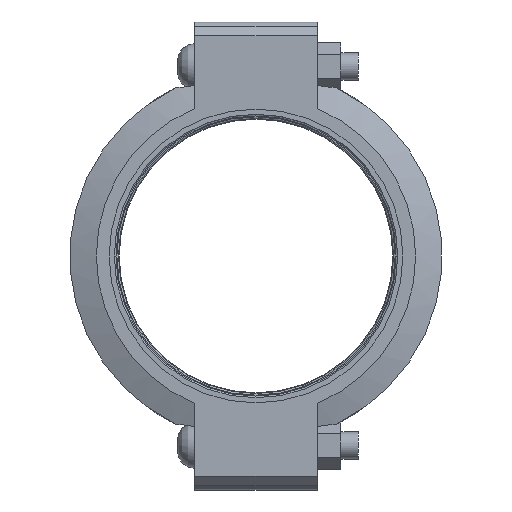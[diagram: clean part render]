
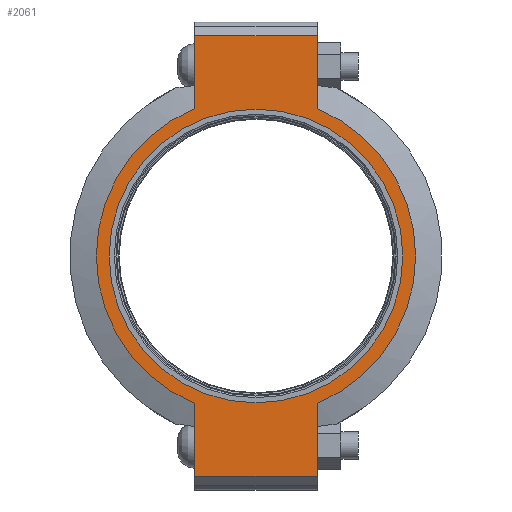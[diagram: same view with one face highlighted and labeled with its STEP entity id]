
A CAD part, left-side view. The second image highlights one B-rep face of the part: STEP entity #2061.
In plain terms, the highlighted planar face has unit normal (-1, 0, 0) as drawn and (0, 0, 1) by its records, which use the part's own axes.
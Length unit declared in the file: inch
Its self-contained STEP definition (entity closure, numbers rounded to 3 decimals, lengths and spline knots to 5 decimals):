
#170=LINE('',#3626,#263);
#181=LINE('',#3677,#274);
#187=LINE('',#3703,#280);
#189=LINE('',#3706,#282);
#190=LINE('',#3711,#283);
#191=LINE('',#3712,#284);
#263=VECTOR('',#2953,0.3937);
#274=VECTOR('',#2984,0.3937);
#280=VECTOR('',#3002,0.3937);
#282=VECTOR('',#3006,0.3937);
#283=VECTOR('',#3011,0.3937);
#284=VECTOR('',#3012,0.3937);
#347=FACE_BOUND('',#600,.T.);
#390=PLANE('',#2407);
#477=FACE_OUTER_BOUND('',#599,.T.);
#599=EDGE_LOOP('',(#1734,#1735,#1736,#1737,#1738,#1739,#1740,#1741));
#600=EDGE_LOOP('',(#1742));
#784=CIRCLE('',#2408,5.845);
#785=CIRCLE('',#2409,5.845);
#786=CIRCLE('',#2410,5.375);
#956=VERTEX_POINT('',#3623);
#957=VERTEX_POINT('',#3625);
#974=VERTEX_POINT('',#3672);
#975=VERTEX_POINT('',#3676);
#982=VERTEX_POINT('',#3698);
#983=VERTEX_POINT('',#3702);
#984=VERTEX_POINT('',#3708);
#985=VERTEX_POINT('',#3710);
#986=VERTEX_POINT('',#3714);
#1211=EDGE_CURVE('',#957,#956,#170,.T.);
#1232=EDGE_CURVE('',#975,#974,#181,.T.);
#1243=EDGE_CURVE('',#983,#982,#187,.T.);
#1245=EDGE_CURVE('',#983,#956,#189,.T.);
#1246=EDGE_CURVE('',#982,#984,#784,.T.);
#1247=EDGE_CURVE('',#984,#985,#190,.T.);
#1248=EDGE_CURVE('',#975,#985,#191,.T.);
#1249=EDGE_CURVE('',#974,#957,#785,.T.);
#1250=EDGE_CURVE('',#986,#986,#786,.T.);
#1734=ORIENTED_EDGE('',*,*,#1245,.F.);
#1735=ORIENTED_EDGE('',*,*,#1243,.T.);
#1736=ORIENTED_EDGE('',*,*,#1246,.T.);
#1737=ORIENTED_EDGE('',*,*,#1247,.T.);
#1738=ORIENTED_EDGE('',*,*,#1248,.F.);
#1739=ORIENTED_EDGE('',*,*,#1232,.T.);
#1740=ORIENTED_EDGE('',*,*,#1249,.T.);
#1741=ORIENTED_EDGE('',*,*,#1211,.T.);
#1742=ORIENTED_EDGE('',*,*,#1250,.T.);
#2061=ADVANCED_FACE('',(#477,#347),#390,.T.);
#2407=AXIS2_PLACEMENT_3D('',#3707,#3007,#3008);
#2408=AXIS2_PLACEMENT_3D('',#3709,#3009,#3010);
#2409=AXIS2_PLACEMENT_3D('',#3713,#3013,#3014);
#2410=AXIS2_PLACEMENT_3D('',#3715,#3015,#3016);
#2953=DIRECTION('',(1.,0.,0.));
#2984=DIRECTION('',(1.,0.,0.));
#3002=DIRECTION('',(-1.,0.,0.));
#3006=DIRECTION('',(0.,-1.,0.));
#3007=DIRECTION('center_axis',(0.,0.,1.));
#3008=DIRECTION('ref_axis',(-1.,0.,0.));
#3009=DIRECTION('center_axis',(0.,0.,1.));
#3010=DIRECTION('ref_axis',(1.,0.,0.));
#3011=DIRECTION('',(-1.,0.,0.));
#3012=DIRECTION('',(0.,1.,0.));
#3013=DIRECTION('center_axis',(0.,0.,1.));
#3014=DIRECTION('ref_axis',(1.,0.,0.));
#3015=DIRECTION('center_axis',(0.,0.,-1.));
#3016=DIRECTION('ref_axis',(1.,0.,0.));
#3623=CARTESIAN_POINT('',(8.065,-2.25,1.315));
#3625=CARTESIAN_POINT('',(5.39458,-2.25,1.315));
#3626=CARTESIAN_POINT('',(-8.565,-2.25,1.315));
#3672=CARTESIAN_POINT('',(-5.39458,-2.25,1.315));
#3676=CARTESIAN_POINT('',(-8.065,-2.25,1.315));
#3677=CARTESIAN_POINT('',(-8.565,-2.25,1.315));
#3698=CARTESIAN_POINT('',(5.39458,2.25,1.315));
#3702=CARTESIAN_POINT('',(8.065,2.25,1.315));
#3703=CARTESIAN_POINT('',(8.565,2.25,1.315));
#3706=CARTESIAN_POINT('',(8.065,-1.125,1.315));
#3707=CARTESIAN_POINT('Origin',(0.,0.,
1.315));
#3708=CARTESIAN_POINT('',(-5.39458,2.25,1.315));
#3709=CARTESIAN_POINT('Origin',(0.,0.,1.315));
#3710=CARTESIAN_POINT('',(-8.065,2.25,1.315));
#3711=CARTESIAN_POINT('',(8.565,2.25,1.315));
#3712=CARTESIAN_POINT('',(-8.065,1.125,1.315));
#3713=CARTESIAN_POINT('Origin',(0.,0.,1.315));
#3714=CARTESIAN_POINT('',(-5.375,0.,1.315));
#3715=CARTESIAN_POINT('Origin',(0.,0.,1.315));
